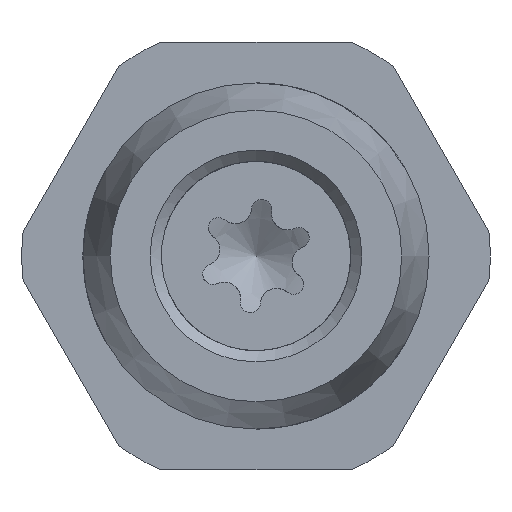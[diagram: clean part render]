
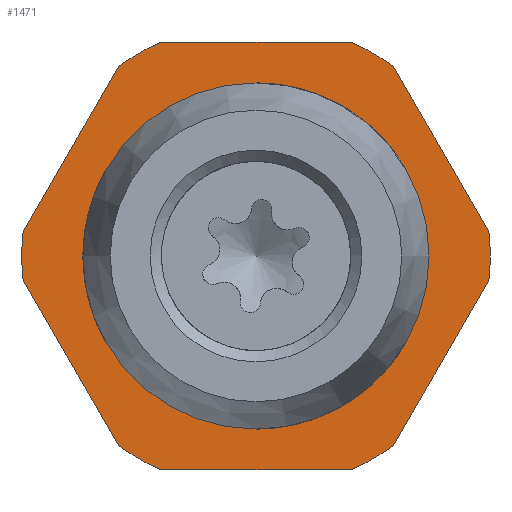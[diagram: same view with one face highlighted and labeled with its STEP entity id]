
A CAD part, front view. The second image highlights one B-rep face of the part: STEP entity #1471.
In plain terms, the highlighted planar face has unit normal (0, -1, 0).
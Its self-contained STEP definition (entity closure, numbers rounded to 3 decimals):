
#62=FACE_BOUND('',#262,.T.);
#80=PLANE('',#1613);
#177=FACE_OUTER_BOUND('',#261,.T.);
#261=EDGE_LOOP('',(#1156,#1157,#1158,#1159,#1160,#1161,#1162,#1163,#1164,
#1165,#1166,#1167));
#262=EDGE_LOOP('',(#1168,#1169));
#352=LINE('',#2770,#440);
#353=LINE('',#2774,#441);
#354=LINE('',#2778,#442);
#355=LINE('',#2782,#443);
#356=LINE('',#2786,#444);
#357=LINE('',#2790,#445);
#440=VECTOR('',#1914,10.);
#441=VECTOR('',#1917,10.);
#442=VECTOR('',#1920,10.);
#443=VECTOR('',#1923,10.);
#444=VECTOR('',#1926,10.);
#445=VECTOR('',#1929,10.);
#518=CIRCLE('',#1611,8.5);
#519=CIRCLE('',#1612,8.5);
#520=CIRCLE('',#1614,11.5);
#521=CIRCLE('',#1615,11.5);
#522=CIRCLE('',#1616,11.5);
#523=CIRCLE('',#1617,11.5);
#524=CIRCLE('',#1618,11.5);
#525=CIRCLE('',#1619,11.5);
#645=VERTEX_POINT('',#2761);
#646=VERTEX_POINT('',#2762);
#647=VERTEX_POINT('',#2768);
#648=VERTEX_POINT('',#2769);
#649=VERTEX_POINT('',#2771);
#650=VERTEX_POINT('',#2773);
#651=VERTEX_POINT('',#2775);
#652=VERTEX_POINT('',#2777);
#653=VERTEX_POINT('',#2779);
#654=VERTEX_POINT('',#2781);
#655=VERTEX_POINT('',#2783);
#656=VERTEX_POINT('',#2785);
#657=VERTEX_POINT('',#2787);
#658=VERTEX_POINT('',#2789);
#828=EDGE_CURVE('',#645,#646,#518,.T.);
#829=EDGE_CURVE('',#646,#645,#519,.T.);
#832=EDGE_CURVE('',#647,#648,#352,.T.);
#833=EDGE_CURVE('',#649,#648,#520,.T.);
#834=EDGE_CURVE('',#649,#650,#353,.T.);
#835=EDGE_CURVE('',#651,#650,#521,.T.);
#836=EDGE_CURVE('',#651,#652,#354,.T.);
#837=EDGE_CURVE('',#653,#652,#522,.T.);
#838=EDGE_CURVE('',#653,#654,#355,.T.);
#839=EDGE_CURVE('',#655,#654,#523,.T.);
#840=EDGE_CURVE('',#655,#656,#356,.T.);
#841=EDGE_CURVE('',#657,#656,#524,.T.);
#842=EDGE_CURVE('',#657,#658,#357,.T.);
#843=EDGE_CURVE('',#647,#658,#525,.T.);
#1156=ORIENTED_EDGE('',*,*,#832,.T.);
#1157=ORIENTED_EDGE('',*,*,#833,.F.);
#1158=ORIENTED_EDGE('',*,*,#834,.T.);
#1159=ORIENTED_EDGE('',*,*,#835,.F.);
#1160=ORIENTED_EDGE('',*,*,#836,.T.);
#1161=ORIENTED_EDGE('',*,*,#837,.F.);
#1162=ORIENTED_EDGE('',*,*,#838,.T.);
#1163=ORIENTED_EDGE('',*,*,#839,.F.);
#1164=ORIENTED_EDGE('',*,*,#840,.T.);
#1165=ORIENTED_EDGE('',*,*,#841,.F.);
#1166=ORIENTED_EDGE('',*,*,#842,.T.);
#1167=ORIENTED_EDGE('',*,*,#843,.F.);
#1168=ORIENTED_EDGE('',*,*,#828,.T.);
#1169=ORIENTED_EDGE('',*,*,#829,.T.);
#1471=ADVANCED_FACE('',(#177,#62),#80,.T.);
#1611=AXIS2_PLACEMENT_3D('',#2763,#1906,#1907);
#1612=AXIS2_PLACEMENT_3D('',#2764,#1908,#1909);
#1613=AXIS2_PLACEMENT_3D('',#2767,#1912,#1913);
#1614=AXIS2_PLACEMENT_3D('',#2772,#1915,#1916);
#1615=AXIS2_PLACEMENT_3D('',#2776,#1918,#1919);
#1616=AXIS2_PLACEMENT_3D('',#2780,#1921,#1922);
#1617=AXIS2_PLACEMENT_3D('',#2784,#1924,#1925);
#1618=AXIS2_PLACEMENT_3D('',#2788,#1927,#1928);
#1619=AXIS2_PLACEMENT_3D('',#2791,#1930,#1931);
#1906=DIRECTION('center_axis',(0.,1.,0.));
#1907=DIRECTION('ref_axis',(-0.5,0.,0.866));
#1908=DIRECTION('center_axis',(0.,1.,0.));
#1909=DIRECTION('ref_axis',(-0.5,0.,0.866));
#1912=DIRECTION('center_axis',(0.,-1.,0.));
#1913=DIRECTION('ref_axis',(0.,0.,
-1.));
#1914=DIRECTION('',(-0.5,0.,0.866));
#1915=DIRECTION('center_axis',(0.,1.,0.));
#1916=DIRECTION('ref_axis',(-1.,0.,0.));
#1917=DIRECTION('',(-1.,0.,0.));
#1918=DIRECTION('center_axis',(0.,1.,0.));
#1919=DIRECTION('ref_axis',(-1.,0.,0.));
#1920=DIRECTION('',(-0.5,0.,-0.866));
#1921=DIRECTION('center_axis',(0.,1.,0.));
#1922=DIRECTION('ref_axis',(-1.,0.,0.));
#1923=DIRECTION('',(0.5,0.,-0.866));
#1924=DIRECTION('center_axis',(0.,1.,0.));
#1925=DIRECTION('ref_axis',(-1.,0.,0.));
#1926=DIRECTION('',(1.,0.,0.));
#1927=DIRECTION('center_axis',(0.,1.,0.));
#1928=DIRECTION('ref_axis',(-1.,0.,0.));
#1929=DIRECTION('',(0.5,0.,0.866));
#1930=DIRECTION('center_axis',(0.,1.,0.));
#1931=DIRECTION('ref_axis',(-1.,0.,0.));
#2761=CARTESIAN_POINT('',(-4.25,34.2,7.361));
#2762=CARTESIAN_POINT('',(4.25,34.2,-7.361));
#2763=CARTESIAN_POINT('Origin',(0.,34.2,0.));
#2764=CARTESIAN_POINT('Origin',(0.,34.2,0.));
#2767=CARTESIAN_POINT('Origin',(-9.5,34.2,0.));
#2768=CARTESIAN_POINT('',(11.438,34.2,1.188));
#2769=CARTESIAN_POINT('',(6.748,34.2,9.312));
#2770=CARTESIAN_POINT('',(9.421,34.2,4.682));
#2771=CARTESIAN_POINT('',(4.69,34.2,10.5));
#2772=CARTESIAN_POINT('Origin',(0.,34.2,0.));
#2773=CARTESIAN_POINT('',(-4.69,34.2,10.5));
#2774=CARTESIAN_POINT('',(-1.719,34.2,10.5));
#2775=CARTESIAN_POINT('',(-6.748,34.2,9.312));
#2776=CARTESIAN_POINT('Origin',(0.,34.2,0.));
#2777=CARTESIAN_POINT('',(-11.438,34.2,1.188));
#2778=CARTESIAN_POINT('',(-8.765,34.2,5.818));
#2779=CARTESIAN_POINT('',(-11.438,34.2,-1.188));
#2780=CARTESIAN_POINT('Origin',(0.,34.2,0.));
#2781=CARTESIAN_POINT('',(-6.748,34.2,-9.312));
#2782=CARTESIAN_POINT('',(-11.796,34.2,-0.568));
#2783=CARTESIAN_POINT('',(-4.69,34.2,-10.5));
#2784=CARTESIAN_POINT('Origin',(0.,34.2,0.));
#2785=CARTESIAN_POINT('',(4.69,34.2,-10.5));
#2786=CARTESIAN_POINT('',(-7.781,34.2,-10.5));
#2787=CARTESIAN_POINT('',(6.748,34.2,-9.312));
#2788=CARTESIAN_POINT('Origin',(0.,34.2,0.));
#2789=CARTESIAN_POINT('',(11.438,34.2,-1.188));
#2790=CARTESIAN_POINT('',(6.39,34.2,-9.932));
#2791=CARTESIAN_POINT('Origin',(0.,34.2,0.));
